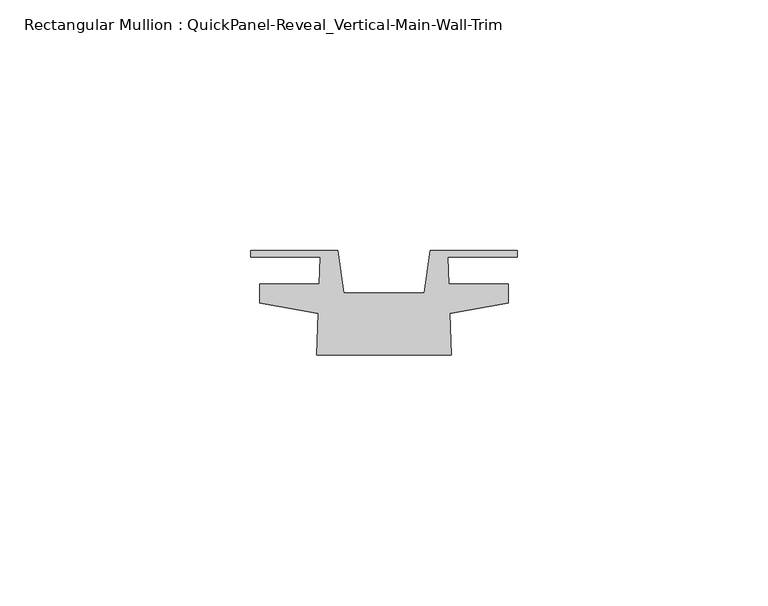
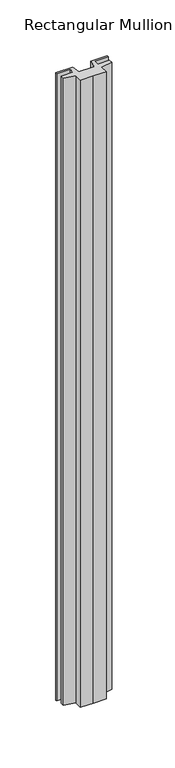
"""IFC4 building model written with IfcOpenShell, lengths in millimetres: member geometry, Rectangular Mullion : QuickPanel-Reveal_Vertical-Main-Wall-Trim."""

from ifc_helpers import new_model, si_unit, frame, origin, place, context, project, spatial, polyline, outline, extrude, source, transform, mapped, element, save


def rectangular_mullion_quickpanel_reveal_vertical_main_wall_7fc4f1b1(model_context):
    return source(origin(), model_context, "Body", "SweptSolid", [
        extrude(outline(polyline([(0.0, -8.6293878), (-13.4106833, -8.6293878), (-13.1217462, -0.3553138), (-24.8306239, 1.6519631), (-24.8306239, 5.4833303), (-12.9178563, 5.4833303), (-12.7283398, 10.9103727), (-26.5942114, 10.9103727), (-26.5942114, 12.1803727), (-9.195281, 12.1803727), (-8.0065632, 3.7222065), (8.0065632, 3.7222065), (9.195281, 12.1803727), (26.5942114, 12.1803727), (26.5942114, 10.9103727), (12.7283398, 10.9103727), (12.9178563, 5.4833303), (24.8306239, 5.4833303), (24.8306239, 1.6519631), (13.1217462, -0.3553138), (13.4106833, -8.6293878), (0.0, -8.6293878)])), frame((0.0, 0.0, -685.3005739), z_axis=(0.0, 0.0, 1.0), x_axis=(1.0, 0.0, 0.0)), (0.0, 0.0, 1.0), 685.3005739),
    ])


if __name__ == "__main__":
    model = new_model("IFC4")
    model_context = context("Model", 3, world=origin())
    ifc_project = project(units=[si_unit("LENGTHUNIT", "METRE", prefix="MILLI")], contexts=[model_context])
    site = spatial("IfcSite", under=ifc_project)
    building = spatial("IfcBuilding", under=site)
    placement = place(None, origin())
    rectangular_mullion_quickpanel_reveal_vertical_main_wall_shape = rectangular_mullion_quickpanel_reveal_vertical_main_wall_7fc4f1b1(model_context)
    element("IfcMember", 1, ObjectType="Rectangular Mullion : QuickPanel-Reveal_Vertical-Main-Wall-Trim", at=placement, inside=building, context=model_context, shape_type="MappedRepresentation", body=[
        mapped(rectangular_mullion_quickpanel_reveal_vertical_main_wall_shape, transform((0.0, 0.0, 0.0), x_axis=(1.0, 0.0, 0.0), y_axis=(0.0, 1.0, 0.0), z_axis=(0.0, 0.0, 1.0))),
    ])
    save(model, "model.ifc")
